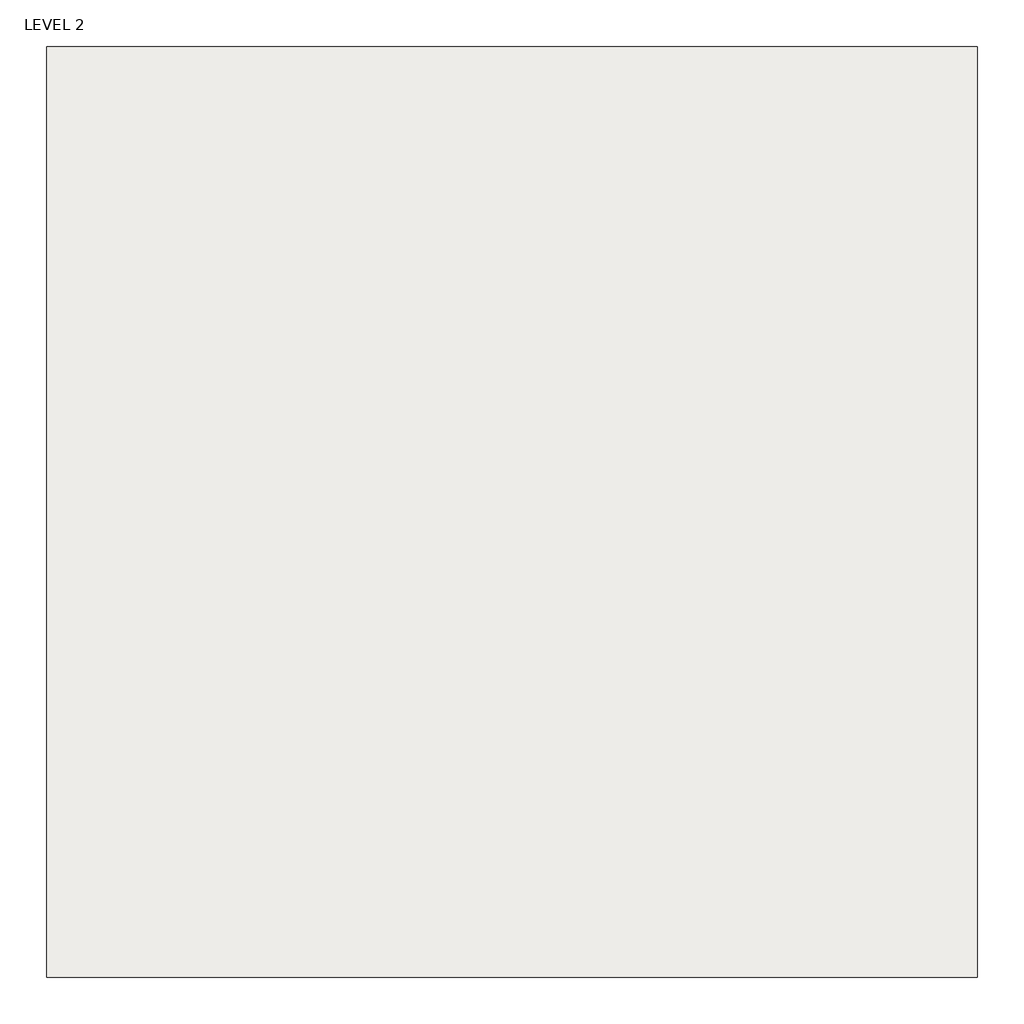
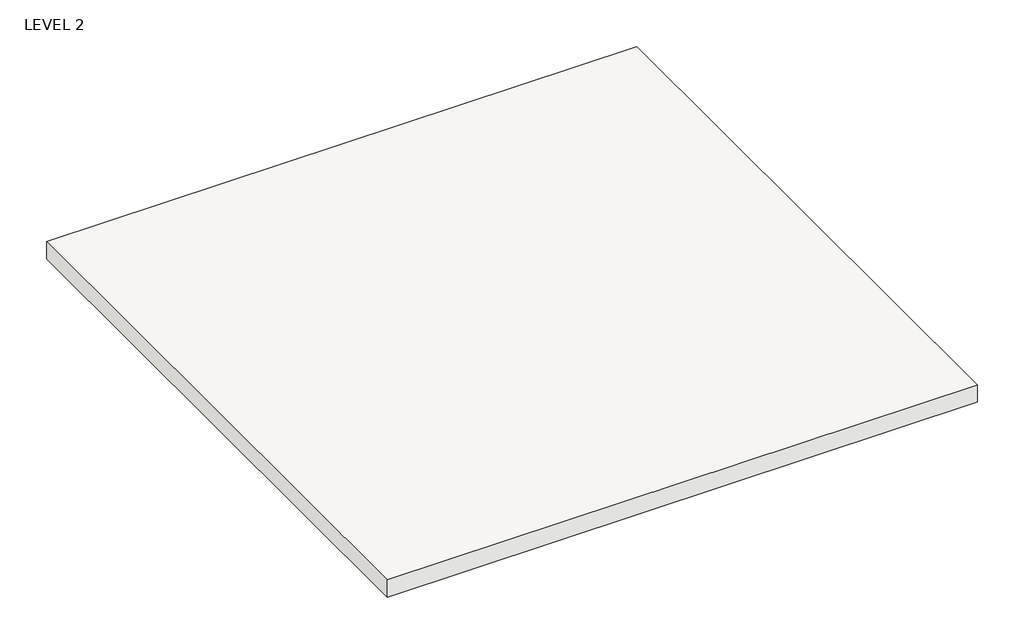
# One storey: 1 roof.
"""IFC4 building model written with IfcOpenShell, lengths in millimetres."""

from ifc_helpers import new_model, si_unit, frame, origin, place, context, project, spatial, polyline, outline, extrude, element, save

model = new_model("IFC4")

# Units and contexts
model_context = context("Model", 3, world=origin())
ifc_project = project(units=[si_unit("LENGTHUNIT", "METRE", prefix="MILLI")], contexts=[model_context])

# Site, building, storey
site = spatial("IfcSite", under=ifc_project)
building = spatial("IfcBuilding", under=site)
storey = spatial("IfcBuildingStorey", under=building, Name="LEVEL 2", Elevation=33528.0)

# Roof
placement = place(None, origin())
element("IfcRoof", 1, ObjectType="Generic - 12\"", at=placement, inside=storey, context=model_context, shape_type="SweptSolid", body=[
    extrude(outline(polyline([(35565.4963775, 39852.0385369), (45319.0963775, 39852.0385369), (45319.0963775, 30098.4385369), (35565.4963775, 30098.4385369), (35565.4963775, 39852.0385369)])), frame((0.0, 0.0, 33528.0), z_axis=(0.0, 0.0, 1.0), x_axis=(1.0, 0.0, 0.0)), (0.0, 0.0, 1.0), 304.8),
])

save(model, "model.ifc")
